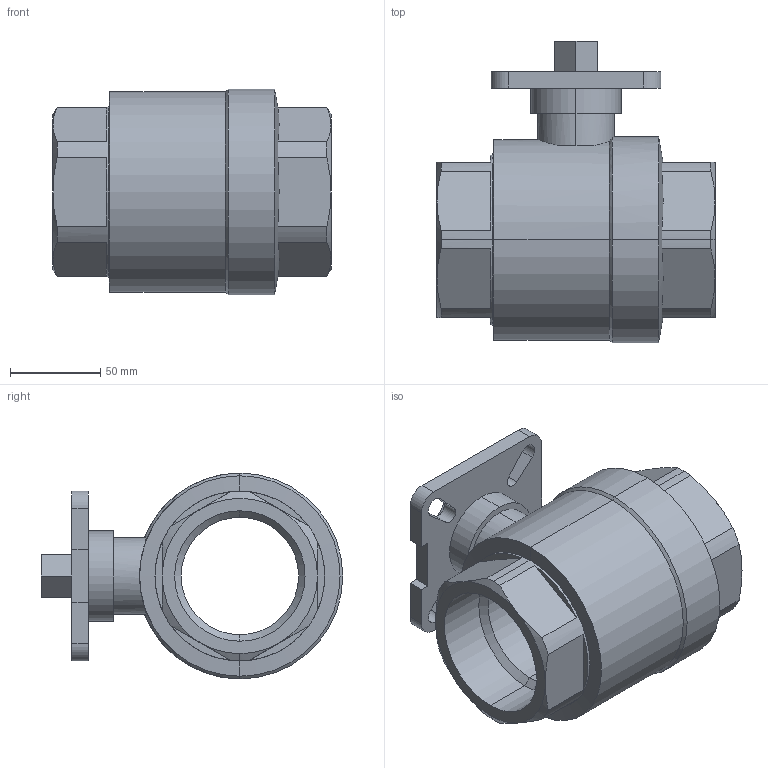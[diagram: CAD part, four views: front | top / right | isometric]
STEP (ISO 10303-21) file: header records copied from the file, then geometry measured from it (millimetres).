
FILE_DESCRIPTION (( 'STEP AP203' ), '1' );
FILE_NAME ('B3.622I0650FVPB0.STEP', '2018-09-28T15:10:36', ( '' ), ( '' ), 'SwSTEP 2.0', 'SolidWorks 2014', '' );
FILE_SCHEMA (( 'CONFIG_CONTROL_DESIGN' ));
Length unit declared in the file: millimetre
Products named in the file (1): B3.622I0650FVPB0
Bounding box: 154 x 167 x 114 mm (x, y, z)
Volume: 865165.3 mm3; surface area: 117794.3 mm2
Topology: 1 solids, 1 shells, 114 faces, 294 edges, 185 vertices
Faces by surface type: plane 50, cylinder 39, cone 25
Entity records: 3778 total; most frequent: CARTESIAN_POINT 884, DIRECTION 597, ORIENTED_EDGE 588, EDGE_CURVE 294, AXIS2_PLACEMENT_3D 224, VERTEX_POINT 185, LINE 149, VECTOR 149
